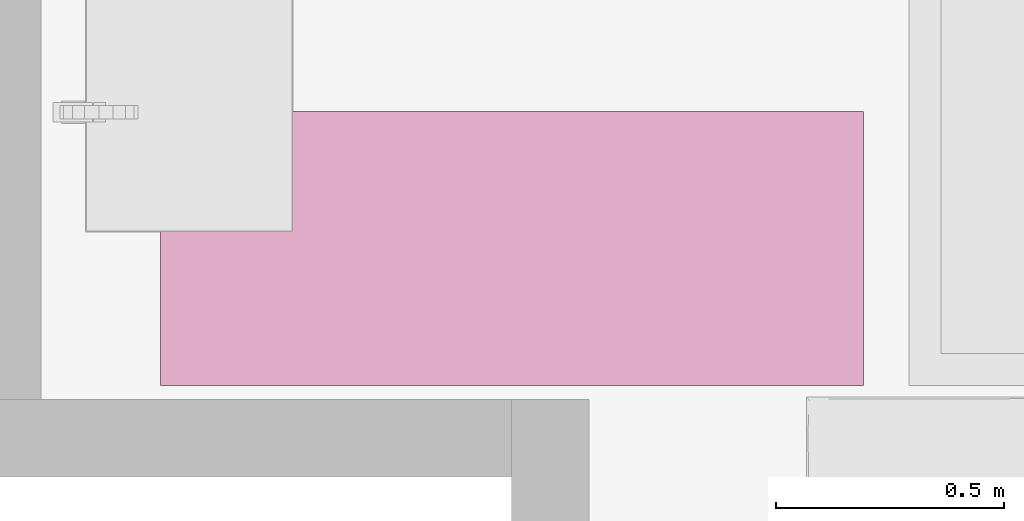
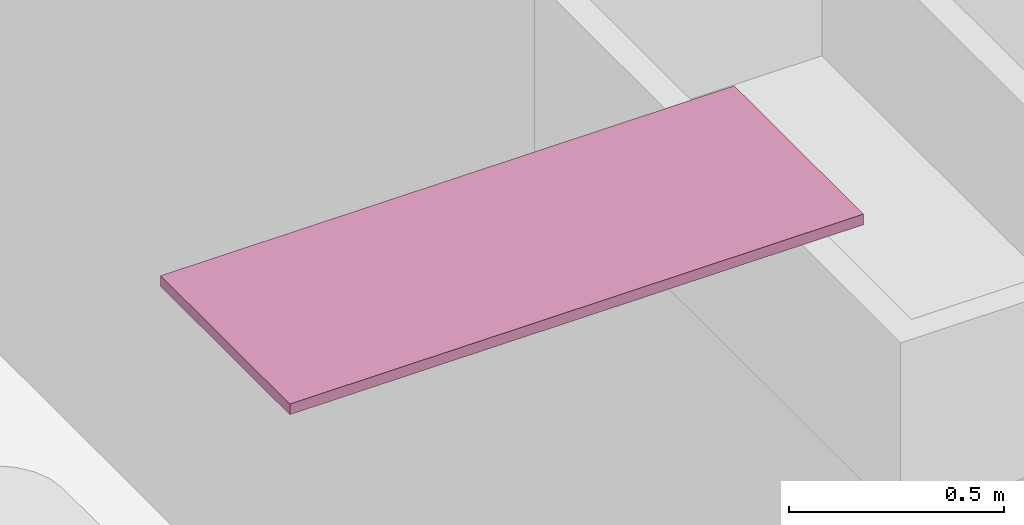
# One storey, part 30 of 68: 1 furnishing.
"""IFC2X3 building model written with IfcOpenShell, lengths in millimetres."""

import ifcopenshell
import ifcopenshell.guid

model = None  # the IFC model being written
_history = None  # IfcOwnerHistory: only IFC2X3 demands one
_inside = {}  # id of a spatial element -> (the spatial element, [elements in it])
_under = {}  # id of a project, library or spatial element -> (it, [spatial elements below it])
_declared = {}  # id of a project -> (the project, [libraries it declares])
_typed = {}  # id of a type object -> (the type object, [elements of that type])
_made_of = {}  # id of a material, layer set ... -> (it, [elements and type objects made of it])


def new_model(schema):
    """Start an empty IFC model of exactly this schema.

    Asked for "IFC4X3", IfcOpenShell would pick the latest addendum, in which some entities
    have other attributes; the version numbers below select the first issue.
    IFC2X3 requires an IfcOwnerHistory on every rooted entity: one is made here for all.
    """
    global model, _history
    if schema == "IFC4X3":
        model = ifcopenshell.file(schema_version=(4, 3, 0, 0))
    else:
        model = ifcopenshell.file(schema=schema)
    _inside.clear()
    _under.clear()
    _declared.clear()
    _typed.clear()
    _made_of.clear()
    _history = None
    if model.schema == "IFC2X3":
        org = make("IfcOrganization", Name="unknown")
        user = make(
            "IfcPersonAndOrganization",
            ThePerson=make("IfcPerson", FamilyName="unknown"),
            TheOrganization=org,
        )
        app = make(
            "IfcApplication",
            ApplicationDeveloper=org,
            Version="unknown",
            ApplicationFullName="unknown",
            ApplicationIdentifier="unknown",
        )
        _history = make(
            "IfcOwnerHistory",
            OwningUser=user,
            OwningApplication=app,
            ChangeAction="ADDED",
            CreationDate=0,
        )
    return model


def make(cls, **values):
    """One entity of the class cls with the attributes given. An attribute that is None is left unset."""
    return model.create_entity(
        cls, **{name: value for name, value in values.items() if value is not None}
    )


def entity(cls, *values):
    """Any entity or typed value of the class cls, its attributes in the order of the schema. None: left unset."""
    e = model.create_entity(cls)
    for i, value in enumerate(values):
        if value is not None:
            e[i] = value
    return e


def rooted(cls, **values):
    """An entity with a GlobalId (a new one), such as an element, a storey or a relation."""
    return make(cls, GlobalId=ifcopenshell.guid.new(), OwnerHistory=_history, **values)


def si_unit(unit_type, name, prefix=None):
    """IfcSIUnit, for example si_unit("LENGTHUNIT", "METRE", prefix="MILLI")."""
    return make("IfcSIUnit", UnitType=unit_type, Prefix=prefix, Name=name)


def converted_unit(unit_type, name, factor, base, dimensions=None, offset=None):
    """IfcConversionBasedUnit, such as the inch: factor (a typed value) times the base unit."""
    return make(
        "IfcConversionBasedUnit"
        if offset is None
        else "IfcConversionBasedUnitWithOffset",
        ConversionOffset=offset,
        Dimensions=None
        if dimensions is None
        else entity("IfcDimensionalExponents", *dimensions),
        UnitType=unit_type,
        Name=name,
        ConversionFactor=make(
            "IfcMeasureWithUnit", ValueComponent=factor, UnitComponent=base
        ),
    )


def assignment(units):
    """IfcUnitAssignment: the units of a project."""
    return None if units is None else make("IfcUnitAssignment", Units=units)


def point(xyz):
    """IfcCartesianPoint."""
    return None if xyz is None else make("IfcCartesianPoint", Coordinates=xyz)


def direction(xyz):
    """IfcDirection."""
    return None if xyz is None else make("IfcDirection", DirectionRatios=xyz)


def frame(location, z_axis=None, x_axis=None):
    """IfcAxis2Placement3D, a coordinate frame: its origin and axes. An axis left out is left unset."""
    return make(
        "IfcAxis2Placement3D",
        Location=point(location),
        Axis=direction(z_axis),
        RefDirection=direction(x_axis),
    )


def frame_2d(location, x_axis=None):
    """IfcAxis2Placement2D, a coordinate frame in the plane: its origin and x axis."""
    return make(
        "IfcAxis2Placement2D", Location=point(location), RefDirection=direction(x_axis)
    )


def origin():
    """The frame at (0, 0, 0) with its axes left unset."""
    return frame((0.0, 0.0, 0.0))


def place(relative_to, where):
    """IfcLocalPlacement: puts the frame where relative to a parent placement (None: the world)."""
    return make(
        "IfcLocalPlacement", PlacementRelTo=relative_to, RelativePlacement=where
    )


def context(
    kind, dimensions, precision=None, world=None, true_north=None, identifier=None
):
    """IfcGeometricRepresentationContext, for example the 3D "Model" context."""
    return make(
        "IfcGeometricRepresentationContext",
        ContextIdentifier=identifier,
        ContextType=kind,
        CoordinateSpaceDimension=dimensions,
        Precision=precision,
        WorldCoordinateSystem=world,
        TrueNorth=true_north,
    )


def subcontext(parent, identifier, kind, view, scale=None):
    """IfcGeometricRepresentationSubContext, for example "Body" below "Model"."""
    return make(
        "IfcGeometricRepresentationSubContext",
        ContextIdentifier=identifier,
        ContextType=kind,
        ParentContext=parent,
        TargetScale=scale,
        TargetView=view,
    )


def project(units=None, contexts=None):
    """IfcProject with its units and contexts."""
    return rooted(
        "IfcProject",
        Name="project",
        RepresentationContexts=contexts,
        UnitsInContext=assignment(units),
    )


def spatial(cls, under=None, at=None, **own):
    """A site, building, storey or space (cls), placed at a placement, below another one or the project."""
    s = rooted(cls, ObjectPlacement=at, **own)
    if under is not None:
        _under.setdefault(under.id(), (under, []))[1].append(s)
    return s


def profile(cls, at=None, kind="AREA", **sizes):
    """A parametric profile (cls). Its sizes go by their IFC names, for example OverallWidth=200.0."""
    return make(cls, ProfileType=kind, Position=at, **sizes)


def rectangle(**sizes):
    """IfcRectangleProfileDef."""
    return profile("IfcRectangleProfileDef", **sizes)


def extrude(swept, where, along, depth):
    """IfcExtrudedAreaSolid: the profile swept, set in the frame where, extruded along a direction by depth."""
    return make(
        "IfcExtrudedAreaSolid",
        SweptArea=swept,
        Position=where,
        ExtrudedDirection=direction(along),
        Depth=depth,
    )


def shape(context_of_items, identifier, shape_type, items):
    """IfcShapeRepresentation: the items that make up one representation, for example the "Body"."""
    return make(
        "IfcShapeRepresentation",
        ContextOfItems=context_of_items,
        RepresentationIdentifier=identifier,
        RepresentationType=shape_type,
        Items=items,
    )


def source(mapping_origin, context_of_items, identifier, shape_type, items):
    """IfcRepresentationMap: a shape defined once, which mapped items show again and again."""
    return make(
        "IfcRepresentationMap",
        MappingOrigin=mapping_origin,
        MappedRepresentation=shape(context_of_items, identifier, shape_type, items),
    )


def transform(
    local_origin,
    x_axis=None,
    y_axis=None,
    z_axis=None,
    scale=None,
    scale2=None,
    scale3=None,
    uniform=True,
):
    """IfcCartesianTransformationOperator3D, or its non-uniform kind. x_axis, y_axis, z_axis: its Axis1, 2, 3."""
    if uniform:
        return make(
            "IfcCartesianTransformationOperator3D",
            Axis1=direction(x_axis),
            Axis2=direction(y_axis),
            LocalOrigin=point(local_origin),
            Scale=scale,
            Axis3=direction(z_axis),
        )
    return make(
        "IfcCartesianTransformationOperator3DnonUniform",
        Axis1=direction(x_axis),
        Axis2=direction(y_axis),
        LocalOrigin=point(local_origin),
        Scale=scale,
        Axis3=direction(z_axis),
        Scale2=scale2,
        Scale3=scale3,
    )


def mapped(mapping_source, mapping_target):
    """IfcMappedItem: shows the shape of a source again, moved by a transform."""
    return make(
        "IfcMappedItem", MappingSource=mapping_source, MappingTarget=mapping_target
    )


def material(Name=None, Category=None):
    """IfcMaterial."""
    return make("IfcMaterial", Name=Name, Category=Category)


def made_of(thing, what):
    """Note that an element or type object is made of a material, layer set ...; save() writes the relation."""
    if what is not None:
        _made_of.setdefault(what.id(), (what, []))[1].append(thing)
    return thing


def type_object(cls, material=None, **own):
    """A type object (cls), such as IfcWallType, which elements share."""
    return made_of(rooted(cls, **own), material)


def type_shapes(of_type, sources):
    """Give a type object the sources (RepresentationMaps) that its elements show as mapped items."""
    of_type.RepresentationMaps = sources


def element(
    cls,
    number,
    at=None,
    inside=None,
    cuts=None,
    type_object=None,
    material=None,
    context=None,
    identifier="Body",
    shape_type=None,
    held_by="IfcProductDefinitionShape",
    body=None,
    shapes=None,
    **own,
):
    """One element of the class cls, such as IfcWall. Its Tag is "e" and its number.

    at: its placement. inside: the storey or other place that contains it. cuts: it is an
    opening in that element (IfcRelVoidsElement). A single representation is given by context,
    identifier, shape_type and body (its items); several are given by shapes. held_by: the class
    of the entity that holds the representations. save() writes the other relations.
    """
    e = rooted(cls, Tag="e%d" % number, ObjectPlacement=at, **own)
    if body is not None:
        shapes = [shape(context, identifier, shape_type, body)]
    if shapes is not None:
        e.Representation = make(held_by, Representations=shapes)
    if inside is not None:
        _inside.setdefault(inside.id(), (inside, []))[1].append(e)
    if cuts is not None:
        rooted(
            "IfcRelVoidsElement", RelatingBuildingElement=cuts, RelatedOpeningElement=e
        )
    if type_object is not None:
        _typed.setdefault(type_object.id(), (type_object, []))[1].append(e)
    return made_of(e, material)


def aggregate(whole, parts):
    """IfcRelAggregates: a whole, such as a stair, and the parts it consists of."""
    return rooted("IfcRelAggregates", RelatingObject=whole, RelatedObjects=parts)


def save(model, path):
    """Write the relations noted so far, then the file.

    IfcRelAggregates (storeys below a building ...), IfcRelContainedInSpatialStructure (elements
    in a storey), IfcRelDefinesByType, IfcRelAssociatesMaterial and IfcRelDeclares: one each for
    every whole, place, type object, material and project.
    """
    for whole, parts in _under.values():
        aggregate(whole, parts)
    for where, things in _inside.values():
        rooted(
            "IfcRelContainedInSpatialStructure",
            RelatedElements=things,
            RelatingStructure=where,
        )
    for kind, things in _typed.values():
        rooted("IfcRelDefinesByType", RelatedObjects=things, RelatingType=kind)
    for what, things in _made_of.values():
        rooted("IfcRelAssociatesMaterial", RelatedObjects=things, RelatingMaterial=what)
    for by, libraries in _declared.values():
        rooted("IfcRelDeclares", RelatingContext=by, RelatedDefinitions=libraries)
    model.write(path)


model = new_model("IFC2X3")

# Units and contexts
model_context = context("Model", 3, precision=0.01, world=origin(), true_north=direction((6.123233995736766e-17, 1.0)))
plan_context = context("Plan", 3, precision=0.01, world=origin(), true_north=direction((6.123233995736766e-17, 1.0)))
body_context = subcontext(model_context, "Body", "Model", "MODEL_VIEW")
ifc_project = project(units=[si_unit("LENGTHUNIT", "METRE", prefix="MILLI"), converted_unit("PLANEANGLEUNIT", "DEGREE", entity("IfcPlaneAngleMeasure", 0.017453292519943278), si_unit("PLANEANGLEUNIT", "RADIAN"), dimensions=[0, 0, 0, 0, 0, 0, 0]), si_unit("AREAUNIT", "SQUARE_METRE")], contexts=[model_context, plan_context])

# Site, building, storey, space
site_placement = place(None, origin())
site = spatial("IfcSite", under=ifc_project, at=site_placement, Name="Default", CompositionType="ELEMENT")
building_placement = place(site_placement, origin())
building = spatial("IfcBuilding", under=site, at=building_placement, CompositionType="ELEMENT")
storey_placement = place(building_placement, frame((0.0, 0.0, 6295.0)))
storey = spatial("IfcBuildingStorey", under=building, at=storey_placement, Name="3K", CompositionType="ELEMENT", Elevation=6294.999999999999)
space_placement = place(storey_placement, origin())
space = spatial("IfcSpace", under=storey, at=space_placement, Name="3-6.2", CompositionType="ELEMENT", InteriorOrExteriorSpace="INTERNAL")

# Furnishing
ifc_material = material(Name="<Unnamed>")
furniture_type = type_object("IfcFurnitureType", Name="HR_Casework_Work-surface_Generic_Rectangular_v1:Default", AssemblyPlace="NOTDEFINED", material=ifc_material)
shared_shape = source(origin(), body_context, "Body", "SweptSolid", [
    extrude(rectangle(XDim=1537.9999999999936, YDim=600.0, at=frame_2d((5.684341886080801e-13, 0.0), x_axis=(1.0, 0.0))), frame((8281.0, 8940.0, 870.0), z_axis=(0.0, 0.0, 1.0), x_axis=(-1.0, 0.0, 0.0)), (0.0, 0.0, 1.0), 29.99999999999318),
])
type_shapes(furniture_type, [shared_shape])
furnishing_placement = place(space_placement, frame((0.0, 0.0, 3170.000076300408)))
element("IfcFurnishingElement", 1, at=furnishing_placement, inside=space, type_object=furniture_type, material=ifc_material, Name="HR_Casework_Work-surface_Generic_Rectangular_v1:Default", ObjectType="HR_Casework_Work-surface_Generic_Rectangular_v1:Default", context=body_context, shape_type="MappedRepresentation", body=[
    mapped(shared_shape, transform((0.0, 0.0, 0.0), scale=1.0)),
])

save(model, "model.ifc")
